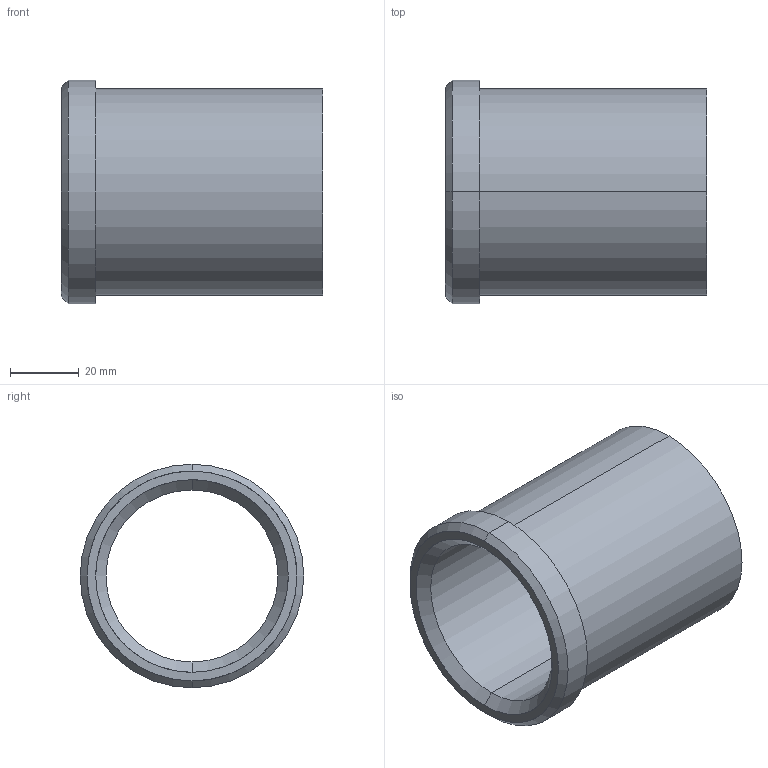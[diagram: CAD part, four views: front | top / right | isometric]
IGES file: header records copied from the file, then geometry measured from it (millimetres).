
Start section: START RECORD GO HERE.
Global section: file name: 353-50X76.igs; native system: DASSAULT SYSTEMES CATIA V5 R20 - www.3ds.com; preprocessor: CATIA Version 5 Release 20 ; author: Utente; organization: NB04-ASUS; date: 20210514.152424; units: millimetre
Bounding box: 76 x 65 x 65 mm (x, y, z)
Surface area: 28488.6 mm2 (no closed solid volume)
Topology: 0 solids, 0 shells, 15 faces, 96 edges, 96 vertices
Faces by surface type: revolution 12, plane 3
